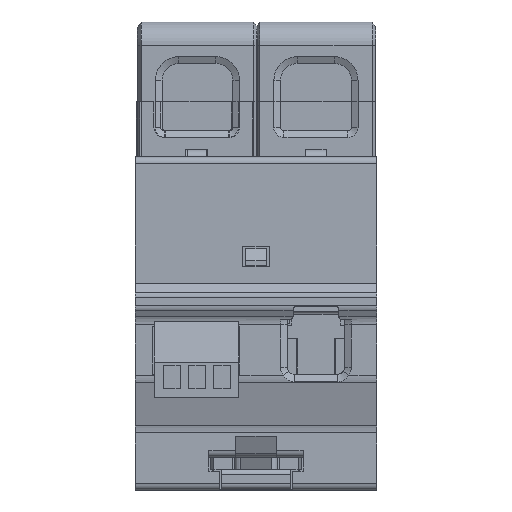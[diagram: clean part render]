
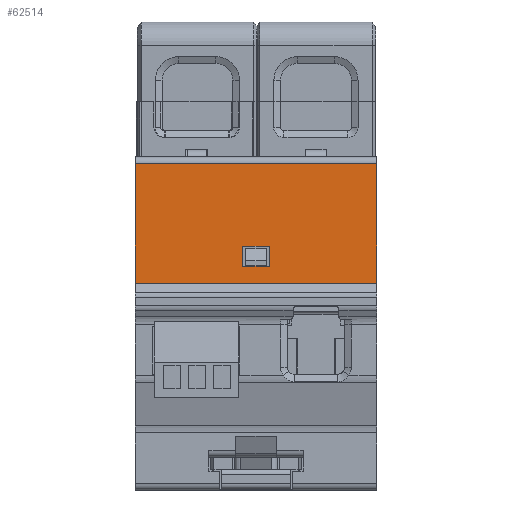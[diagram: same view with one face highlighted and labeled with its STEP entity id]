
A CAD part, left-side view. The second image highlights one B-rep face of the part: STEP entity #62514.
In plain terms, the highlighted planar face has unit normal (-1, 0, 0).
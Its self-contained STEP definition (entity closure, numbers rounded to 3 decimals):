
#77=DIRECTION('',(0.,0.,1.));
#78=VECTOR('',#77,17.8);
#79=CARTESIAN_POINT('',(-0.05,-0.1,25.2));
#80=LINE('',#79,#78);
#9710=DIRECTION('',(0.,-1.,0.));
#9711=VECTOR('',#9710,4.);
#9712=CARTESIAN_POINT('',(-0.05,19.8,30.7));
#9713=LINE('',#9712,#9711);
#9738=DIRECTION('',(0.,0.,-1.));
#9739=VECTOR('',#9738,3.);
#9740=CARTESIAN_POINT('',(-0.05,15.8,30.7));
#9741=LINE('',#9740,#9739);
#9742=DIRECTION('',(0.,0.,1.));
#9743=VECTOR('',#9742,17.8);
#9744=CARTESIAN_POINT('',(-0.05,35.7,25.2));
#9745=LINE('',#9744,#9743);
#9746=DIRECTION('',(0.,1.,0.));
#9747=VECTOR('',#9746,35.8);
#9748=CARTESIAN_POINT('',(-0.05,-0.1,25.2));
#9749=LINE('',#9748,#9747);
#9750=DIRECTION('',(0.,0.,-1.));
#9751=VECTOR('',#9750,3.);
#9752=CARTESIAN_POINT('',(-0.05,19.8,30.7));
#9753=LINE('',#9752,#9751);
#9754=DIRECTION('',(0.,-1.,0.));
#9755=VECTOR('',#9754,4.);
#9756=CARTESIAN_POINT('',(-0.05,19.8,27.7));
#9757=LINE('',#9756,#9755);
#9758=DIRECTION('',(0.,1.,0.));
#9759=VECTOR('',#9758,35.8);
#9760=CARTESIAN_POINT('',(-0.05,-0.1,43.));
#9761=LINE('',#9760,#9759);
#39718=CARTESIAN_POINT('',(-0.05,-0.1,25.2));
#39719=VERTEX_POINT('',#39718);
#39720=CARTESIAN_POINT('',(-0.05,-0.1,43.));
#39721=VERTEX_POINT('',#39720);
#40695=CARTESIAN_POINT('',(-0.05,35.7,43.));
#40696=VERTEX_POINT('',#40695);
#40697=CARTESIAN_POINT('',(-0.05,35.7,25.2));
#40698=VERTEX_POINT('',#40697);
#44144=CARTESIAN_POINT('',(-0.05,19.8,30.7));
#44145=VERTEX_POINT('',#44144);
#44146=CARTESIAN_POINT('',(-0.05,15.8,30.7));
#44147=VERTEX_POINT('',#44146);
#44148=CARTESIAN_POINT('',(-0.05,19.8,27.7));
#44149=VERTEX_POINT('',#44148);
#44150=CARTESIAN_POINT('',(-0.05,15.8,27.7));
#44151=VERTEX_POINT('',#44150);
#62495=CARTESIAN_POINT('',(-0.05,17.8,-5.5));
#62496=DIRECTION('',(-1.,0.,0.));
#62497=DIRECTION('',(0.,0.,-1.));
#62498=AXIS2_PLACEMENT_3D('',#62495,#62496,#62497);
#62499=PLANE('',#62498);
#62500=ORIENTED_EDGE('',*,*,#53094,.T.);
#62502=ORIENTED_EDGE('',*,*,#62501,.F.);
#62503=ORIENTED_EDGE('',*,*,#51928,.F.);
#62505=ORIENTED_EDGE('',*,*,#62504,.T.);
#62506=EDGE_LOOP('',(#62500,#62502,#62503,#62505));
#62507=FACE_OUTER_BOUND('',#62506,.F.);
#62508=ORIENTED_EDGE('',*,*,#62462,.T.);
#62509=ORIENTED_EDGE('',*,*,#62476,.T.);
#62510=ORIENTED_EDGE('',*,*,#62489,.F.);
#62511=ORIENTED_EDGE('',*,*,#62446,.F.);
#62512=EDGE_LOOP('',(#62508,#62509,#62510,#62511));
#62513=FACE_BOUND('',#62512,.F.);
#62514=ADVANCED_FACE('',(#62507,#62513),#62499,.T.);
#51928=EDGE_CURVE('',#39719,#39721,#80,.T.);
#53094=EDGE_CURVE('',#40698,#40696,#9745,.T.);
#62446=EDGE_CURVE('',#44145,#44147,#9713,.T.);
#62462=EDGE_CURVE('',#44145,#44149,#9753,.T.);
#62476=EDGE_CURVE('',#44149,#44151,#9757,.T.);
#62489=EDGE_CURVE('',#44147,#44151,#9741,.T.);
#62501=EDGE_CURVE('',#39721,#40696,#9761,.T.);
#62504=EDGE_CURVE('',#39719,#40698,#9749,.T.);
